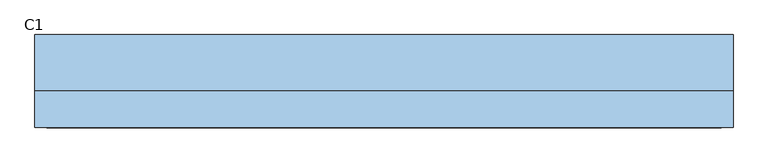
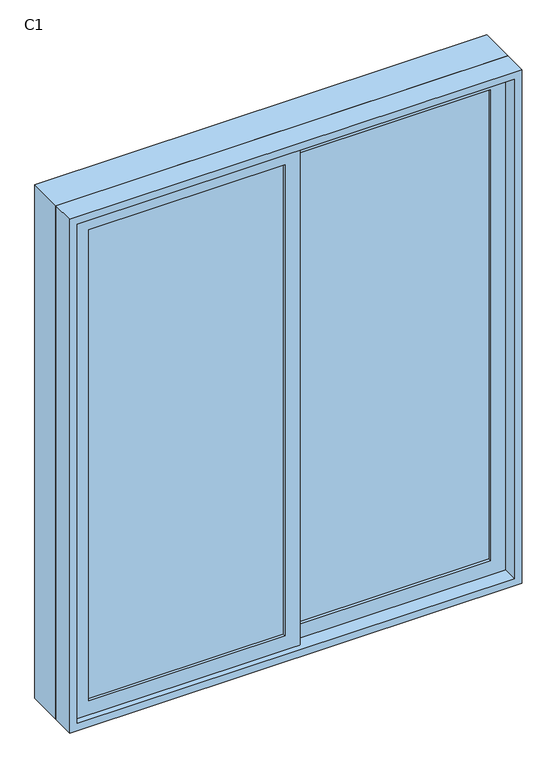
"""IFC4 building model written with IfcOpenShell, lengths in millimetres: window geometry, 推拉窗6 : C1."""

from ifc_helpers import new_model, si_unit, frame, origin, place, context, project, spatial, polyline, outline, extrude, source, transform, mapped, element, save


def c1_0131cb8c(model_context):
    return source(origin(), model_context, "Body", "SweptSolid", [
        extrude(outline(polyline([(-665.475, -3.1265625), (-665.475, 6.8734375), (-15.475, 6.8734375), (-15.475, -3.1265625), (-665.475, -3.1265625)])), frame((0.0, 0.0, 975.0), z_axis=(0.0, 0.0, 1.0), x_axis=(1.0, 0.0, 0.0)), (0.0, 0.0, 1.0), 1650.0),
        extrude(outline(polyline([(34.525, 26.8734375), (34.525, 36.8734375), (684.525, 36.8734375), (684.525, 26.8734375), (34.525, 26.8734375)])), frame((0.0, 0.0, 975.0), z_axis=(0.0, 0.0, 1.0), x_axis=(1.0, 0.0, 0.0)), (0.0, 0.0, 1.0), 1650.0),
        extrude(outline(polyline([(2700.0, -740.475), (900.0, -740.475), (900.0, 759.525), (2700.0, 759.525), (2700.0, -740.475)]), holes=[polyline([(2645.0, 709.525), (955.0, 709.525), (955.0, -690.475), (2645.0, -690.475), (2645.0, 709.525)])]), frame((0.0, 46.8734375, 0.0), z_axis=(0.0, 1.0, 0.0), x_axis=(0.0, 0.0, 1.0)), (0.0, 0.0, 1.0), 120.0),
        extrude(outline(polyline([(925.0, 34.525), (2675.0, 34.525), (2675.0, -715.475), (925.0, -715.475), (925.0, 34.525)]), holes=[polyline([(975.0, -15.475), (975.0, -665.475), (2625.0, -665.475), (2625.0, -15.475), (975.0, -15.475)])]), frame((0.0, -13.1265625, 0.0), z_axis=(0.0, 1.0, 0.0), x_axis=(0.0, 0.0, 1.0)), (0.0, 0.0, 1.0), 30.0),
        extrude(outline(polyline([(2675.0, -15.475), (925.0, -15.475), (925.0, 734.525), (2675.0, 734.525), (2675.0, -15.475)]), holes=[polyline([(2625.0, 34.525), (2625.0, 684.525), (975.0, 684.525), (975.0, 34.525), (2625.0, 34.525)])]), frame((0.0, 16.8734375, 0.0), z_axis=(0.0, 1.0, 0.0), x_axis=(0.0, 0.0, 1.0)), (0.0, 0.0, 1.0), 30.0),
        extrude(outline(polyline([(2700.0, -740.475), (900.0, -740.475), (900.0, 759.525), (2700.0, 759.525), (2700.0, -740.475)]), holes=[polyline([(925.0, -715.475), (2675.0, -715.475), (2675.0, 734.525), (925.0, 734.525), (925.0, -715.475)])]), frame((0.0, -33.1265625, 0.0), z_axis=(0.0, 1.0, 0.0), x_axis=(0.0, 0.0, 1.0)), (0.0, 0.0, 1.0), 80.0),
    ])


if __name__ == "__main__":
    model = new_model("IFC4")
    model_context = context("Model", 3, world=origin())
    ifc_project = project(units=[si_unit("LENGTHUNIT", "METRE", prefix="MILLI")], contexts=[model_context])
    site = spatial("IfcSite", under=ifc_project)
    building = spatial("IfcBuilding", under=site)
    placement = place(None, origin())
    c1_shape = c1_0131cb8c(model_context)
    element("IfcWindow", 1, ObjectType="推拉窗6 : C1", at=placement, inside=building, context=model_context, shape_type="MappedRepresentation", body=[
        mapped(c1_shape, transform((0.0, 0.0, 0.0), x_axis=(1.0, 0.0, 0.0), y_axis=(0.0, 1.0, 0.0), z_axis=(0.0, 0.0, 1.0))),
    ])
    save(model, "model.ifc")
